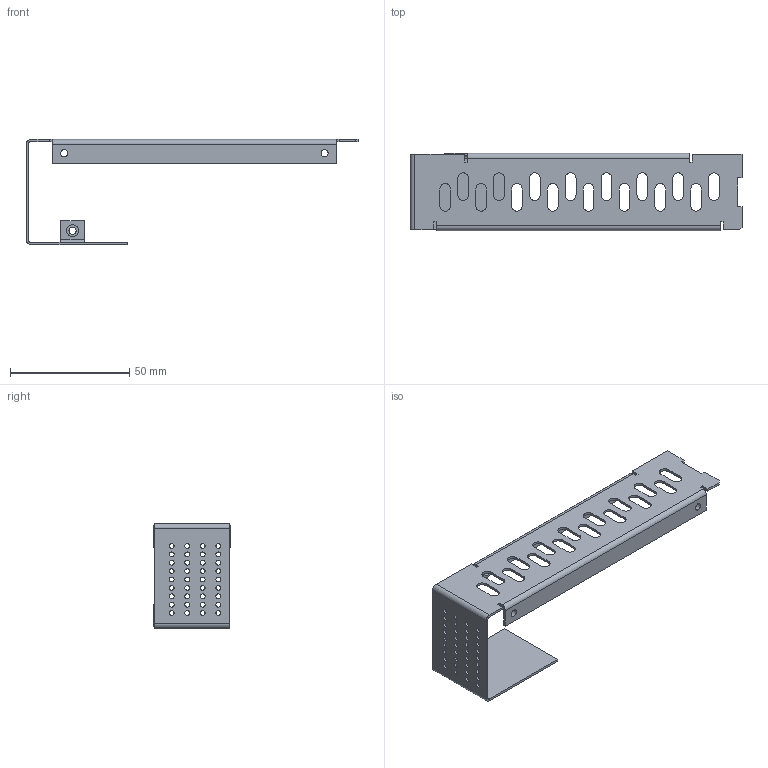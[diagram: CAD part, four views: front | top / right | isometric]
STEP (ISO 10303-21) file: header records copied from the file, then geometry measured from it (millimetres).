
FILE_DESCRIPTION(('TFLEX Exchange Step'),'2;1');
FILE_NAME('X2\0422042804120413\X0\.745312.015-01_Верхняя часть корпуса.grb.stp', '2025-07-31T16:08:30+04:00',('golovaa'),('Unknown organisation'),'TFLEX Exchange 2019.2','T-FLEX CAD','Unknown authorisation');
FILE_SCHEMA( ('AUTOMOTIVE_DESIGN { 1 0 10303 214 1 1 1 1 }') );
Length unit declared in the file: millimetre
Products named in the file (2): 0; ТШВГ.745312.015-01_Верхняя часть корпуса
Assembly tree (1 placements, depth 2):
  ТШВГ.745312.015-01_Верхняя часть корпуса
    0
Bounding box: 138.98 x 32.4 x 44 mm (x, y, z)
Volume: 8176 mm3; surface area: 17677.9 mm2
Topology: 1 solids, 1 shells, 229 faces, 672 edges, 450 vertices
Faces by surface type: cylinder 131, plane 98
Full cylindrical faces by diameter (mm): 3 x3
Entity records: 8045 total; most frequent: DIRECTION 1407, CARTESIAN_POINT 1362, ORIENTED_EDGE 1352, EDGE_CURVE 676, AXIS2_PLACEMENT_3D 499, VERTEX_POINT 454, VECTOR 409, LINE 409
